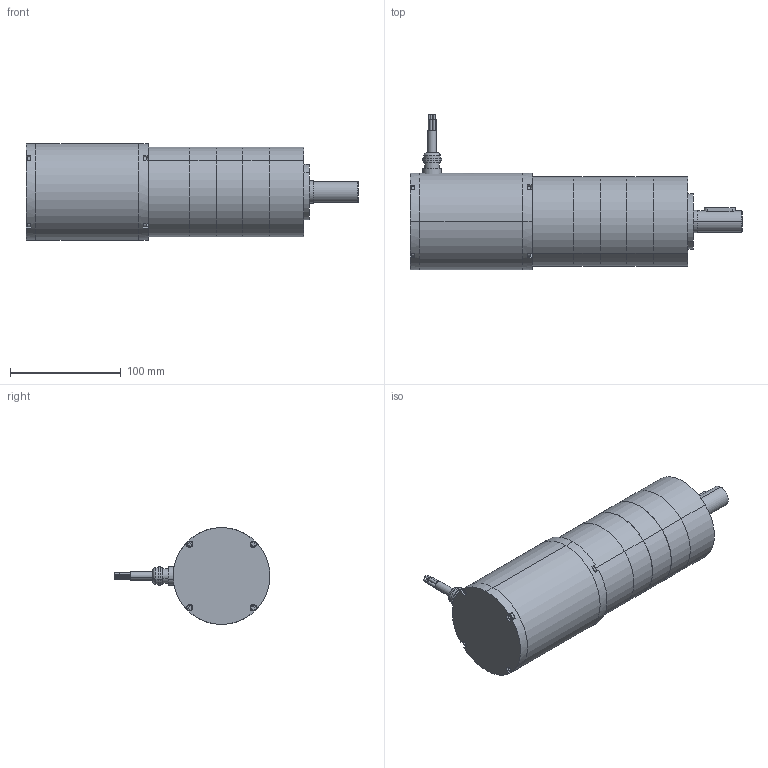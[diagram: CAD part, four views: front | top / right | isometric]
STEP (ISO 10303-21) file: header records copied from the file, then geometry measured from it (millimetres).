
FILE_DESCRIPTION (( 'STEP AP203' ), '1' );
FILE_NAME ('bl87500gp3.step', '2018-12-07T19:09:53', ( '' ), ( '' ), 'SwSTEP 2.0', 'SolidWorks 2017', '' );
FILE_SCHEMA (( 'CONFIG_CONTROL_DESIGN' ));
Length unit declared in the file: inch
Products named in the file (1): bl87500gp3
Bounding box: 299.84 x 140.68 x 87.38 mm (x, y, z)
Volume: 1422082.8 mm3; surface area: 164026 mm2
Topology: 22 solids, 22 shells, 474 faces, 1019 edges, 644 vertices
Faces by surface type: plane 206, cylinder 189, cone 77, torus 2
Entity records: 13025 total; most frequent: DIRECTION 2394, CARTESIAN_POINT 2322, ORIENTED_EDGE 2006, EDGE_CURVE 1003, AXIS2_PLACEMENT_3D 924, VERTEX_POINT 644, EDGE_LOOP 555, LINE 546
